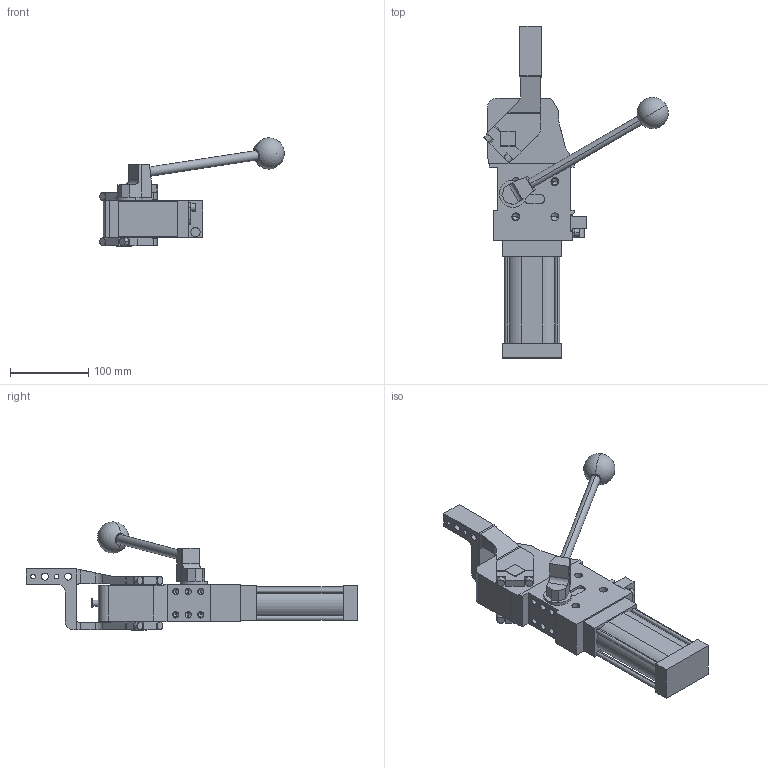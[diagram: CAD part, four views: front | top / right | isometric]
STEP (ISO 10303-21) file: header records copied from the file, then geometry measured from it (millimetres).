
FILE_DESCRIPTION (( 'STEP AP214' ), '1' );
FILE_NAME ('cplm50lah1ssi1g_75.STEP', '2023-01-26T13:15:56', ( '' ), ( '' ), 'SwSTEP 2.0', 'SolidWorks 2022', '' );
FILE_SCHEMA (( 'AUTOMOTIVE_DESIGN' ));
Length unit declared in the file: millimetre
Products named in the file (5): blocchetto_VEP_0; comando_manuale_cplm_50; cplm50lah1ssi1g_75; leva_sx_offset_15_cpl50; meccanica_cplm_50
Assembly tree (4 placements, depth 2):
  cplm50lah1ssi1g_75
    meccanica_cplm_50
    blocchetto_VEP_0
    leva_sx_offset_15_cpl50
    comando_manuale_cplm_50
Bounding box: 236.03 x 424.5 x 138.5 mm (x, y, z)
Volume: 1469960 mm3; surface area: 181399.7 mm2
Topology: 4 solids, 4 shells, 431 faces, 1108 edges, 691 vertices
Faces by surface type: plane 212, cylinder 167, cone 50, sphere 2
Entity records: 14371 total; most frequent: DIRECTION 2277, CARTESIAN_POINT 2271, ORIENTED_EDGE 2114, EDGE_CURVE 1057, AXIS2_PLACEMENT_3D 792, VECTOR 693, LINE 693, VERTEX_POINT 688
